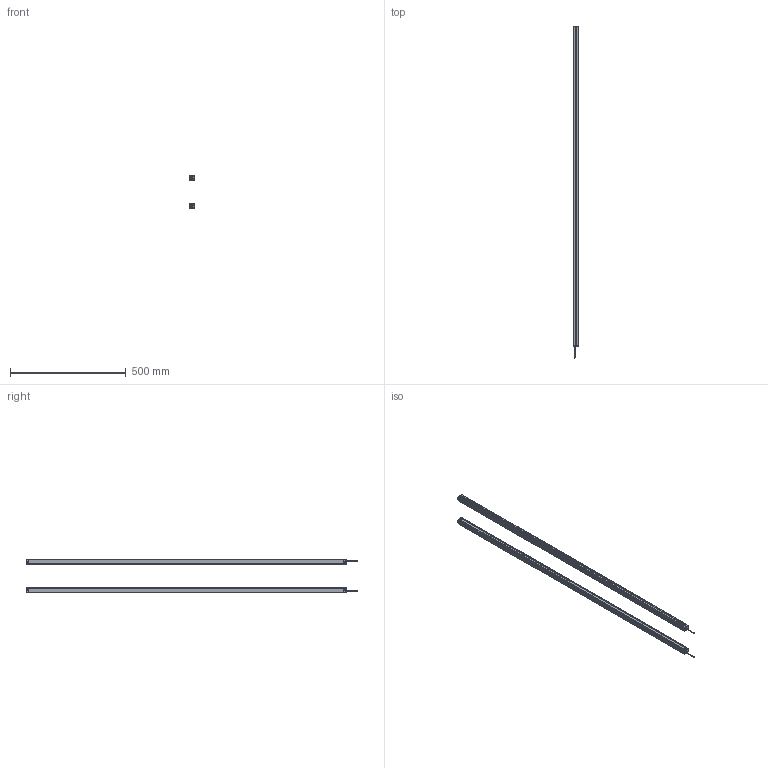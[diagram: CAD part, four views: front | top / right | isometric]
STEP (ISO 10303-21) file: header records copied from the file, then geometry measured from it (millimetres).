
FILE_DESCRIPTION (( 'STEP AP214' ), '1' );
FILE_NAME ('MTC6820.STEP', '2022-08-02T09:10:58', ( '' ), ( '' ), 'SwSTEP 2.0', 'SolidWorks 2018', '' );
FILE_SCHEMA (( 'AUTOMOTIVE_DESIGN' ));
Length unit declared in the file: millimetre
Products named in the file (5): MTC waike^MTC; MTC6820; P02^MTC; P01^MTC; 噩砃P02^MTC
Assembly tree (6 placements, depth 2):
  MTC6820
    MTC waike^MTC  x2
    P01^MTC  x2
    P02^MTC
    噩砃P02^MTC
Bounding box: 25 x 1432 x 141.4 mm (x, y, z)
Volume: 451997.4 mm3; surface area: 629648.1 mm2
Topology: 8 solids, 8 shells, 480 faces, 1396 edges, 924 vertices
Faces by surface type: plane 272, cylinder 208
Entity records: 10886 total; most frequent: DIRECTION 1881, CARTESIAN_POINT 1878, ORIENTED_EDGE 1846, EDGE_CURVE 923, AXIS2_PLACEMENT_3D 637, VERTEX_POINT 610, VECTOR 607, LINE 607
